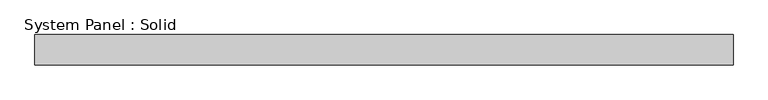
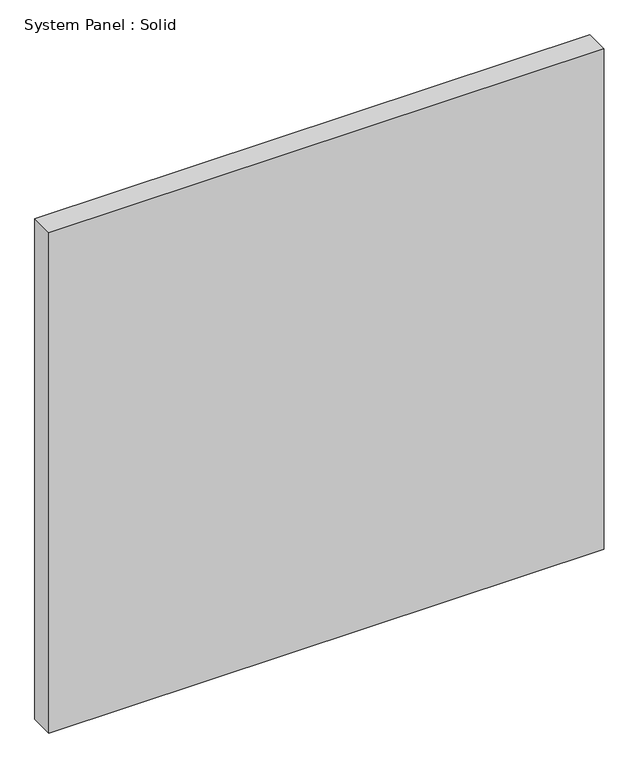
"""IFC4 building model written with IfcOpenShell, lengths in millimetres: plate geometry, System Panel : Solid."""

from ifc_helpers import new_model, si_unit, origin, origin_with_axes, place, context, project, spatial, polyline, outline, extrude, source, transform, mapped, element, save


def system_panel_solid_e0f9033a(model_context):
    return source(origin(), model_context, "Body", "SweptSolid", [
        extrude(outline(polyline([(688.0142442, -49.5), (-688.0142442, -49.5), (-688.0142442, 10.5), (688.0142442, 10.5), (688.0142442, -49.5)])), origin_with_axes(), (0.0, 0.0, 1.0), 1310.0),
    ])


if __name__ == "__main__":
    model = new_model("IFC4")
    model_context = context("Model", 3, world=origin())
    ifc_project = project(units=[si_unit("LENGTHUNIT", "METRE", prefix="MILLI")], contexts=[model_context])
    site = spatial("IfcSite", under=ifc_project)
    building = spatial("IfcBuilding", under=site)
    placement = place(None, origin())
    system_panel_solid_shape = system_panel_solid_e0f9033a(model_context)
    element("IfcPlate", 1, ObjectType="System Panel : Solid", at=placement, inside=building, context=model_context, shape_type="MappedRepresentation", body=[
        mapped(system_panel_solid_shape, transform((0.0, 0.0, 0.0), x_axis=(1.0, 0.0, 0.0), y_axis=(0.0, 1.0, 0.0), z_axis=(0.0, 0.0, 1.0))),
    ])
    save(model, "model.ifc")
